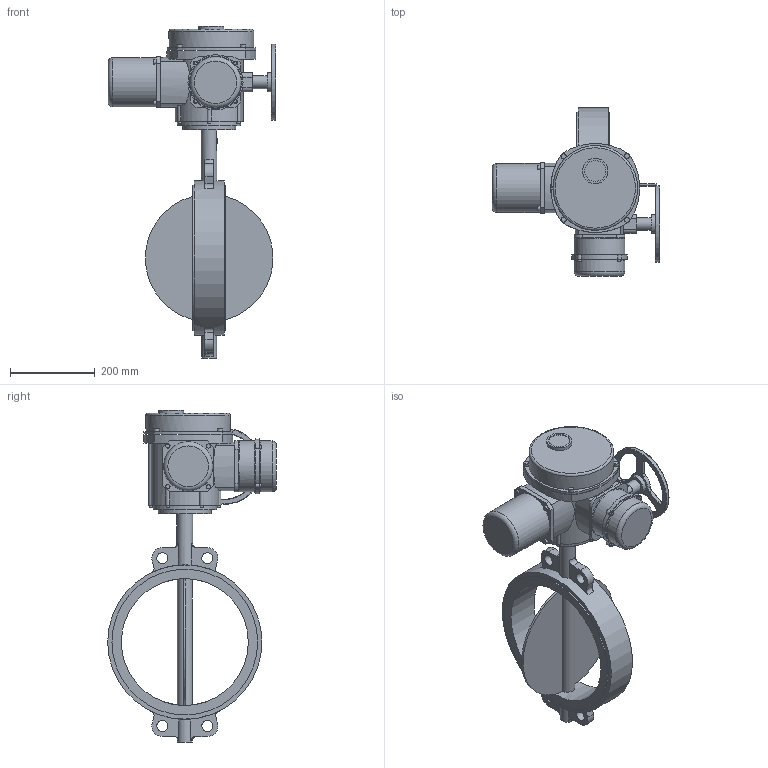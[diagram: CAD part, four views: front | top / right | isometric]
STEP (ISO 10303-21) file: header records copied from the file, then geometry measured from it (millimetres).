
FILE_DESCRIPTION(('STEP AP203'), '1');
FILE_NAME('青蜮铕 017W.Y_DN300_PN16_QT.Z 60', '', ('UNSPECIFIED'), ('UNSPECIFIED'), 'ASCON STEP Converter 1.6', 'ASCON Math Kernel', '');
FILE_SCHEMA(('CONFIG_CONTROL_DESIGN'));
Length unit declared in the file: millimetre
Bounding box: 395 x 398.1 x 784 mm (x, y, z)
Volume: 12803196.4 mm3; surface area: 881439.1 mm2
Topology: 1 solids, 1 shells, 336 faces, 813 edges, 504 vertices
Faces by surface type: cylinder 149, plane 112, torus 51, cone 16, bspline 8
Full cylindrical faces by diameter (mm): 8 x10, 8.376 x4, 10 x4, 10.106 x4, 12 x8, 12.386 x1, 26 x4, 30 x1, 35 x2, 37 x1, 45 x1, 50 x1, 60 x1, 116 x1, 120 x2, 125 x1, 150 x1, 180 x1, 200 x1, 300 x1, 344.2 x2, 364.2 x1
Entity records: 15172 total; most frequent: CARTESIAN_POINT 4744, DIRECTION 1735, ORIENTED_EDGE 1438, AXIS2_PLACEMENT_3D 746, EDGE_CURVE 719, VERTEX_POINT 495, EDGE_LOOP 467, CIRCLE 417
